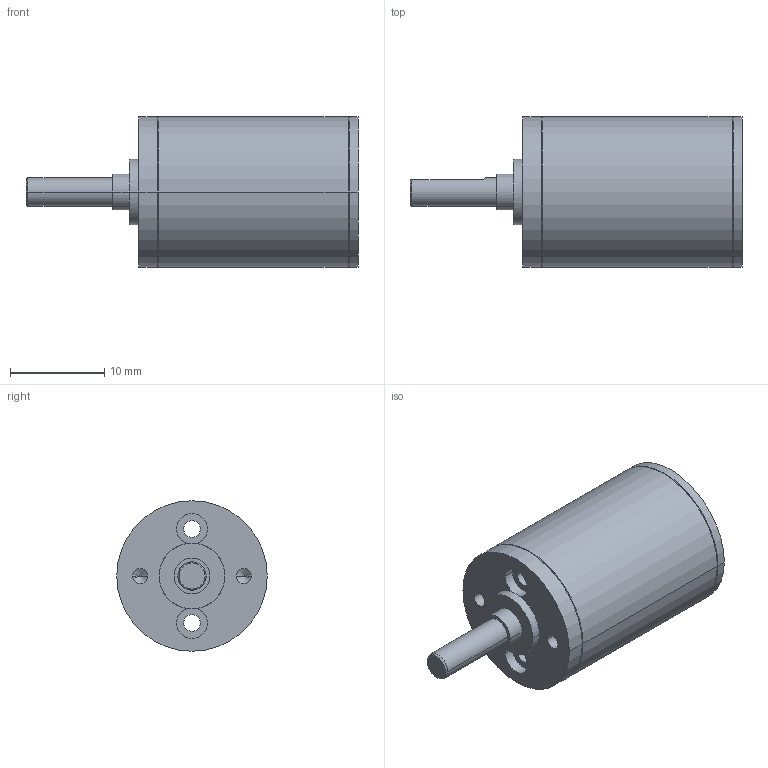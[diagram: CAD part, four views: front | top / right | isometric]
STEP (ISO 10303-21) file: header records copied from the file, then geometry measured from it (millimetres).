
FILE_DESCRIPTION((''),'2;1');
FILE_NAME('GS16V','2016-10-06T',('mmagpetk'),(''),'CREO PARAMETRIC BY PTC INC, 2016050','CREO PARAMETRIC BY PTC INC, 2016050','');
FILE_SCHEMA(('CONFIG_CONTROL_DESIGN'));
Length unit declared in the file: millimetre
Products named in the file (1): GS16V
Bounding box: 35.3 x 16 x 16 mm (x, y, z)
Volume: 4202.7 mm3; surface area: 2372.2 mm2
Topology: 1 solids, 1 shells, 51 faces, 115 edges, 68 vertices
Faces by surface type: cylinder 26, cone 13, plane 12
Entity records: 1866 total; most frequent: DIRECTION 274, CARTESIAN_POINT 242, ORIENTED_EDGE 222, AXIS2_PLACEMENT_3D 116, PRESENTATION_STYLE_ASSIGNMENT 112, STYLED_ITEM 112, CURVE_STYLE 111, EDGE_CURVE 111
